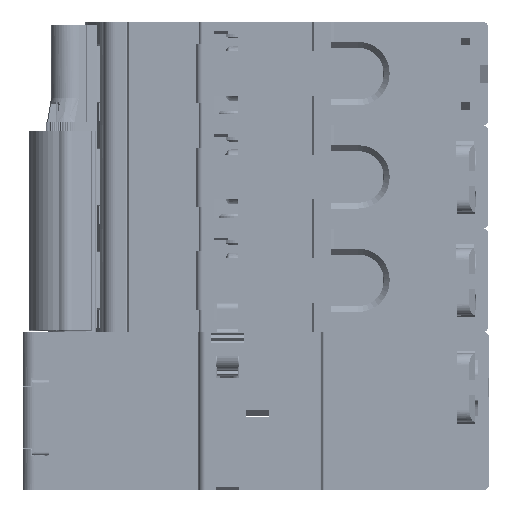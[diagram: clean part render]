
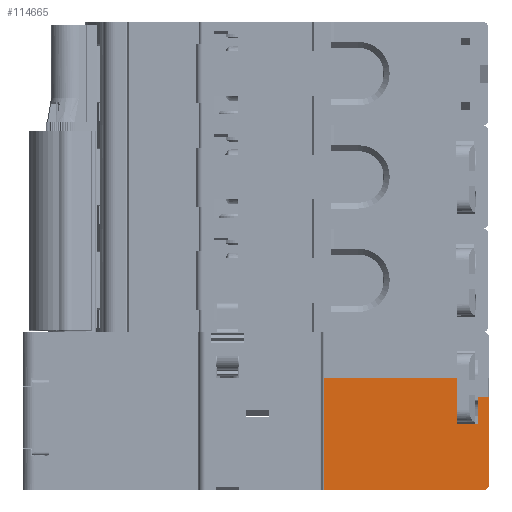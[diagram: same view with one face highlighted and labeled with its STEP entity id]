
A CAD part, left-side view. The second image highlights one B-rep face of the part: STEP entity #114665.
In plain terms, the highlighted planar face has unit normal (-1, 0, 0).
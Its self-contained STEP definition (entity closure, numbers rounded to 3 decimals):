
#233 = EDGE_CURVE ( 'NONE', #11102, #179408, #218494, .T. ) ;
#5317 = CARTESIAN_POINT ( 'NONE',  ( -147.889, -67.635, -2.98 ) ) ;
#10416 = CARTESIAN_POINT ( 'NONE',  ( -147.889, -73.135, -39.814 ) ) ;
#10838 = DIRECTION ( 'NONE',  ( 0., -1., 0. ) ) ;
#11102 = VERTEX_POINT ( 'NONE', #18515 ) ;
#11624 = CARTESIAN_POINT ( 'NONE',  ( -147.889, -73.135, -51.014 ) ) ;
#18515 = CARTESIAN_POINT ( 'NONE',  ( -147.889, -67.635, -32.014 ) ) ;
#19899 = FACE_OUTER_BOUND ( 'NONE', #223031, .T. ) ;
#23928 = EDGE_CURVE ( 'NONE', #26128, #55827, #115932, .T. ) ;
#24021 = VECTOR ( 'NONE', #183644, 1000. ) ;
#26128 = VERTEX_POINT ( 'NONE', #187201 ) ;
#27896 = DIRECTION ( 'NONE',  ( -1., 0., 0. ) ) ;
#38746 = DIRECTION ( 'NONE',  ( 0., 0., -1. ) ) ;
#39202 = EDGE_CURVE ( 'NONE', #179408, #201630, #48260, .T. ) ;
#43639 = ORIENTED_EDGE ( 'NONE', *, *, #39202, .T. ) ;
#46596 = CARTESIAN_POINT ( 'NONE',  ( -147.889, -71.135, -35.214 ) ) ;
#48222 = VERTEX_POINT ( 'NONE', #183034 ) ;
#48260 = LINE ( 'NONE', #223706, #231423 ) ;
#48662 = EDGE_CURVE ( 'NONE', #197833, #55827, #160688, .T. ) ;
#49982 = VECTOR ( 'NONE', #127424, 1000. ) ;
#50363 = LINE ( 'NONE', #5317, #53370 ) ;
#51226 = VECTOR ( 'NONE', #10838, 1000. ) ;
#53370 = VECTOR ( 'NONE', #210096, 1000. ) ;
#55827 = VERTEX_POINT ( 'NONE', #153404 ) ;
#58243 = AXIS2_PLACEMENT_3D ( 'NONE', #173671, #192283, #211794 ) ;
#62520 = DIRECTION ( 'NONE',  ( 0., 1., 0. ) ) ;
#70131 = EDGE_CURVE ( 'NONE', #197833, #48222, #200261, .T. ) ;
#76918 = CARTESIAN_POINT ( 'NONE',  ( -147.889, -71.135, -2.98 ) ) ;
#78237 = LINE ( 'NONE', #10416, #200304 ) ;
#78810 = ORIENTED_EDGE ( 'NONE', *, *, #48662, .F. ) ;
#82221 = ORIENTED_EDGE ( 'NONE', *, *, #23928, .T. ) ;
#98758 = CARTESIAN_POINT ( 'NONE',  ( -147.889, -72.135, -50.014 ) ) ;
#114665 = ADVANCED_FACE ( 'NONE', ( #19899 ), #116849, .T. ) ;
#115932 = CIRCLE ( 'NONE', #181799, 1. ) ;
#116849 = PLANE ( 'NONE',  #58243 ) ;
#117238 = CARTESIAN_POINT ( 'NONE',  ( -147.889, -45.035, -51.014 ) ) ;
#125741 = ORIENTED_EDGE ( 'NONE', *, *, #70131, .T. ) ;
#127424 = DIRECTION ( 'NONE',  ( 0., 1., 0. ) ) ;
#130544 = EDGE_CURVE ( 'NONE', #201630, #26128, #181987, .T. ) ;
#131242 = CARTESIAN_POINT ( 'NONE',  ( -147.889, -71.135, -39.814 ) ) ;
#133874 = CARTESIAN_POINT ( 'NONE',  ( -147.889, -73.135, -35.214 ) ) ;
#134410 = VERTEX_POINT ( 'NONE', #131242 ) ;
#136410 = LINE ( 'NONE', #76918, #171401 ) ;
#136702 = EDGE_CURVE ( 'NONE', #11102, #159393, #50363, .T. ) ;
#139296 = VECTOR ( 'NONE', #176530, 1000. ) ;
#153404 = CARTESIAN_POINT ( 'NONE',  ( -147.889, -73.135, -50.014 ) ) ;
#156548 = ORIENTED_EDGE ( 'NONE', *, *, #130544, .T. ) ;
#157793 = CARTESIAN_POINT ( 'NONE',  ( -147.889, -67.635, -39.814 ) ) ;
#159393 = VERTEX_POINT ( 'NONE', #157793 ) ;
#160688 = LINE ( 'NONE', #237294, #24021 ) ;
#171401 = VECTOR ( 'NONE', #38746, 1000. ) ;
#173671 = CARTESIAN_POINT ( 'NONE',  ( -147.889, -73.135, -2.98 ) ) ;
#176530 = DIRECTION ( 'NONE',  ( 0., 1., 0. ) ) ;
#179408 = VERTEX_POINT ( 'NONE', #239322 ) ;
#181799 = AXIS2_PLACEMENT_3D ( 'NONE', #98758, #27896, #228667 ) ;
#181987 = LINE ( 'NONE', #11624, #51226 ) ;
#183034 = CARTESIAN_POINT ( 'NONE',  ( -147.889, -71.135, -35.214 ) ) ;
#183644 = DIRECTION ( 'NONE',  ( 0., 0., -1. ) ) ;
#187201 = CARTESIAN_POINT ( 'NONE',  ( -147.889, -72.135, -51.014 ) ) ;
#192283 = DIRECTION ( 'NONE',  ( -1., 0., 0. ) ) ;
#197650 = EDGE_CURVE ( 'NONE', #48222, #134410, #136410, .T. ) ;
#197833 = VERTEX_POINT ( 'NONE', #133874 ) ;
#200261 = LINE ( 'NONE', #46596, #139296 ) ;
#200304 = VECTOR ( 'NONE', #62520, 1000. ) ;
#201630 = VERTEX_POINT ( 'NONE', #117238 ) ;
#205866 = DIRECTION ( 'NONE',  ( 0., 0., -1. ) ) ;
#208825 = ORIENTED_EDGE ( 'NONE', *, *, #214134, .T. ) ;
#209899 = ORIENTED_EDGE ( 'NONE', *, *, #197650, .T. ) ;
#210096 = DIRECTION ( 'NONE',  ( 0., 0., -1. ) ) ;
#211794 = DIRECTION ( 'NONE',  ( 0., 0., 1. ) ) ;
#213095 = ORIENTED_EDGE ( 'NONE', *, *, #233, .T. ) ;
#214134 = EDGE_CURVE ( 'NONE', #134410, #159393, #78237, .T. ) ;
#218494 = LINE ( 'NONE', #222417, #49982 ) ;
#222290 = ORIENTED_EDGE ( 'NONE', *, *, #136702, .F. ) ;
#222417 = CARTESIAN_POINT ( 'NONE',  ( -147.889, -73.135, -32.014 ) ) ;
#223031 = EDGE_LOOP ( 'NONE', ( #156548, #82221, #78810, #125741, #209899, #208825, #222290, #213095, #43639 ) ) ;
#223706 = CARTESIAN_POINT ( 'NONE',  ( -147.889, -45.035, -2.98 ) ) ;
#228667 = DIRECTION ( 'NONE',  ( 0., 0., 1. ) ) ;
#231423 = VECTOR ( 'NONE', #205866, 1000. ) ;
#237294 = CARTESIAN_POINT ( 'NONE',  ( -147.889, -73.135, -46.914 ) ) ;
#239322 = CARTESIAN_POINT ( 'NONE',  ( -147.889, -45.035, -32.014 ) ) ;
